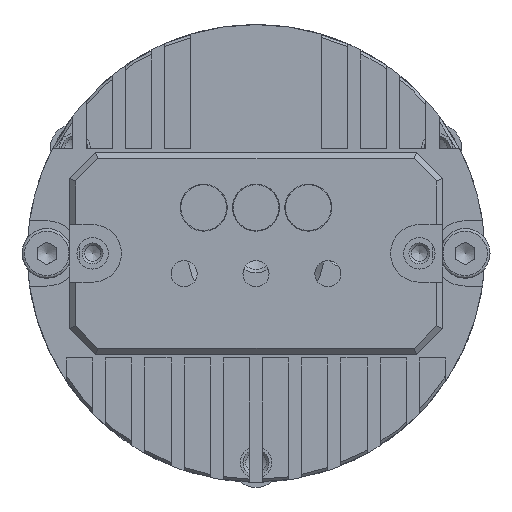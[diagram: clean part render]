
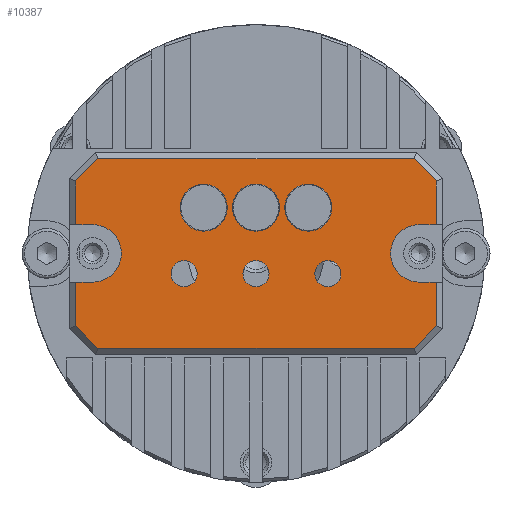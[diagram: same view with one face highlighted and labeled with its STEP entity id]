
A CAD part, left-side view. The second image highlights one B-rep face of the part: STEP entity #10387.
In plain terms, the highlighted planar face has unit normal (-1, 0, 0) as drawn and (0, 0, 1) by its records, which use the part's own axes.
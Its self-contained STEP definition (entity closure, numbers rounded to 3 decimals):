
#9009=CARTESIAN_POINT('',(6.05,-18.3,7.));
#9010=VERTEX_POINT('',#9009);
#9011=CARTESIAN_POINT('',(4.25,-18.3,7.));
#9012=DIRECTION('',(0.0,0.0,-1.0));
#9013=DIRECTION('',(-1.0,0.0,0.0));
#9014=AXIS2_PLACEMENT_3D('',#9011,#9012,#9013);
#9015=CIRCLE('',#9014,1.8);
#9016=EDGE_CURVE('',#9010,#9010,#9015,.T.);
#9037=CARTESIAN_POINT('',(6.05,-14.3,7.));
#9038=VERTEX_POINT('',#9037);
#9039=CARTESIAN_POINT('',(4.25,-14.3,7.));
#9040=DIRECTION('',(0.0,0.0,-1.0));
#9041=DIRECTION('',(-1.0,0.0,0.0));
#9042=AXIS2_PLACEMENT_3D('',#9039,#9040,#9041);
#9043=CIRCLE('',#9042,1.8);
#9044=EDGE_CURVE('',#9038,#9038,#9043,.T.);
#9065=CARTESIAN_POINT('',(10.3,-19.8,7.));
#9066=VERTEX_POINT('',#9065);
#9067=CARTESIAN_POINT('',(9.3,-19.8,7.));
#9068=DIRECTION('',(0.0,0.0,-1.0));
#9069=DIRECTION('',(-1.0,0.0,0.0));
#9070=AXIS2_PLACEMENT_3D('',#9067,#9068,#9069);
#9071=CIRCLE('',#9070,1.0);
#9072=EDGE_CURVE('',#9066,#9066,#9071,.T.);
#9093=CARTESIAN_POINT('',(10.3,-14.3,7.));
#9094=VERTEX_POINT('',#9093);
#9095=CARTESIAN_POINT('',(9.3,-14.3,7.));
#9096=DIRECTION('',(0.0,0.0,-1.0));
#9097=DIRECTION('',(-1.0,0.0,0.0));
#9098=AXIS2_PLACEMENT_3D('',#9095,#9096,#9097);
#9099=CIRCLE('',#9098,1.0);
#9100=EDGE_CURVE('',#9094,#9094,#9099,.T.);
#9121=CARTESIAN_POINT('',(10.3,-8.8,7.));
#9122=VERTEX_POINT('',#9121);
#9123=CARTESIAN_POINT('',(9.3,-8.8,7.));
#9124=DIRECTION('',(0.0,0.0,-1.0));
#9125=DIRECTION('',(-1.0,0.0,0.0));
#9126=AXIS2_PLACEMENT_3D('',#9123,#9124,#9125);
#9127=CIRCLE('',#9126,1.0);
#9128=EDGE_CURVE('',#9122,#9122,#9127,.T.);
#9438=CARTESIAN_POINT('',(5.55,-28.1,7.));
#9439=VERTEX_POINT('',#9438);
#9446=CARTESIAN_POINT('',(2.207,-28.1,7.));
#9447=VERTEX_POINT('',#9446);
#9448=CARTESIAN_POINT('',(5.55,-28.1,7.));
#9449=DIRECTION('',(-1.0,0.0,0.0));
#9450=VECTOR('',#9449,3.343);
#9451=LINE('',#9448,#9450);
#9452=EDGE_CURVE('',#9439,#9447,#9451,.T.);
#9476=CARTESIAN_POINT('',(5.55,-0.5,7.));
#9477=VERTEX_POINT('',#9476);
#9494=CARTESIAN_POINT('',(2.207,-0.5,7.));
#9495=VERTEX_POINT('',#9494);
#9502=CARTESIAN_POINT('',(2.207,-0.5,7.));
#9503=DIRECTION('',(1.0,0.0,0.0));
#9504=VECTOR('',#9503,3.343);
#9505=LINE('',#9502,#9504);
#9506=EDGE_CURVE('',#9495,#9477,#9505,.T.);
#9516=CARTESIAN_POINT('',(0.5,-2.207,7.));
#9517=VERTEX_POINT('',#9516);
#9518=CARTESIAN_POINT('',(0.5,-2.207,7.));
#9519=DIRECTION('',(0.707,0.707,0.0));
#9520=VECTOR('',#9519,2.414);
#9521=LINE('',#9518,#9520);
#9522=EDGE_CURVE('',#9517,#9495,#9521,.T.);
#9547=CARTESIAN_POINT('',(0.5,-26.393,7.));
#9548=VERTEX_POINT('',#9547);
#9549=CARTESIAN_POINT('',(0.5,-26.393,7.));
#9550=DIRECTION('',(0.0,1.0,0.0));
#9551=VECTOR('',#9550,24.186);
#9552=LINE('',#9549,#9551);
#9553=EDGE_CURVE('',#9548,#9517,#9552,.T.);
#9578=CARTESIAN_POINT('',(2.207,-28.1,7.));
#9579=DIRECTION('',(-0.707,0.707,0.0));
#9580=VECTOR('',#9579,2.414);
#9581=LINE('',#9578,#9580);
#9582=EDGE_CURVE('',#9447,#9548,#9581,.T.);
#9617=CARTESIAN_POINT('',(5.55,-26.8,7.));
#9618=VERTEX_POINT('',#9617);
#9625=CARTESIAN_POINT('',(5.55,-28.1,7.));
#9626=DIRECTION('',(0.0,1.0,0.0));
#9627=VECTOR('',#9626,1.3);
#9628=LINE('',#9625,#9627);
#9629=EDGE_CURVE('',#9439,#9618,#9628,.T.);
#9823=CARTESIAN_POINT('',(9.95,-28.1,7.));
#9824=VERTEX_POINT('',#9823);
#9832=CARTESIAN_POINT('',(13.293,-28.1,7.));
#9833=VERTEX_POINT('',#9832);
#9840=CARTESIAN_POINT('',(13.293,-28.1,7.));
#9841=DIRECTION('',(-1.0,0.0,0.0));
#9842=VECTOR('',#9841,3.343);
#9843=LINE('',#9840,#9842);
#9844=EDGE_CURVE('',#9833,#9824,#9843,.T.);
#9854=CARTESIAN_POINT('',(9.95,-0.5,7.));
#9855=VERTEX_POINT('',#9854);
#9862=CARTESIAN_POINT('',(13.293,-0.5,7.));
#9863=VERTEX_POINT('',#9862);
#9864=CARTESIAN_POINT('',(9.95,-0.5,7.));
#9865=DIRECTION('',(1.0,0.0,0.0));
#9866=VECTOR('',#9865,3.343);
#9867=LINE('',#9864,#9866);
#9868=EDGE_CURVE('',#9855,#9863,#9867,.T.);
#9885=CARTESIAN_POINT('',(15.,-2.207,7.));
#9886=VERTEX_POINT('',#9885);
#9887=CARTESIAN_POINT('',(15.,-26.393,7.));
#9888=VERTEX_POINT('',#9887);
#9889=CARTESIAN_POINT('',(15.,-2.207,7.));
#9890=DIRECTION('',(0.0,-1.0,0.0));
#9891=VECTOR('',#9890,24.186);
#9892=LINE('',#9889,#9891);
#9893=EDGE_CURVE('',#9886,#9888,#9892,.T.);
#9925=CARTESIAN_POINT('',(13.293,-0.5,7.));
#9926=DIRECTION('',(0.707,-0.707,0.0));
#9927=VECTOR('',#9926,2.414);
#9928=LINE('',#9925,#9927);
#9929=EDGE_CURVE('',#9863,#9886,#9928,.T.);
#9947=CARTESIAN_POINT('',(15.,-26.393,7.));
#9948=DIRECTION('',(-0.707,-0.707,0.0));
#9949=VECTOR('',#9948,2.414);
#9950=LINE('',#9947,#9949);
#9951=EDGE_CURVE('',#9888,#9833,#9950,.T.);
#9979=CARTESIAN_POINT('',(9.95,-1.8,7.));
#9980=VERTEX_POINT('',#9979);
#9987=CARTESIAN_POINT('',(9.95,-0.5,7.));
#9988=DIRECTION('',(0.0,-1.0,0.0));
#9989=VECTOR('',#9988,1.3);
#9990=LINE('',#9987,#9989);
#9991=EDGE_CURVE('',#9855,#9980,#9990,.T.);
#10052=CARTESIAN_POINT('',(6.05,-10.3,7.));
#10053=VERTEX_POINT('',#10052);
#10054=CARTESIAN_POINT('',(4.25,-10.3,7.));
#10055=DIRECTION('',(0.0,0.0,-1.0));
#10056=DIRECTION('',(-1.0,0.0,0.0));
#10057=AXIS2_PLACEMENT_3D('',#10054,#10055,#10056);
#10058=CIRCLE('',#10057,1.8);
#10059=EDGE_CURVE('',#10053,#10053,#10058,.T.);
#10070=CARTESIAN_POINT('',(5.55,-1.8,7.));
#10071=VERTEX_POINT('',#10070);
#10072=CARTESIAN_POINT('',(5.55,-1.8,7.));
#10073=DIRECTION('',(0.0,1.0,0.0));
#10074=VECTOR('',#10073,1.3);
#10075=LINE('',#10072,#10074);
#10076=EDGE_CURVE('',#10071,#9477,#10075,.T.);
#10102=CARTESIAN_POINT('',(9.95,-26.8,7.));
#10103=VERTEX_POINT('',#10102);
#10104=CARTESIAN_POINT('',(9.95,-26.8,7.));
#10105=DIRECTION('',(0.0,-1.0,0.0));
#10106=VECTOR('',#10105,1.3);
#10107=LINE('',#10104,#10106);
#10108=EDGE_CURVE('',#10103,#9824,#10107,.T.);
#10163=CARTESIAN_POINT('',(7.75,-1.8,7.));
#10164=DIRECTION('',(0.0,0.0,-1.0));
#10165=DIRECTION('',(1.0,0.0,0.0));
#10166=AXIS2_PLACEMENT_3D('',#10163,#10164,#10165);
#10167=CIRCLE('',#10166,2.2);
#10168=EDGE_CURVE('',#9980,#10071,#10167,.T.);
#10229=CARTESIAN_POINT('',(7.75,-26.8,7.));
#10230=DIRECTION('',(0.0,0.0,-1.0));
#10231=DIRECTION('',(1.0,0.0,0.0));
#10232=AXIS2_PLACEMENT_3D('',#10229,#10230,#10231);
#10233=CIRCLE('',#10232,2.2);
#10234=EDGE_CURVE('',#9618,#10103,#10233,.T.);
#10346=CARTESIAN_POINT('',(7.75,-14.3,7.));
#10347=DIRECTION('',(0.0,0.0,1.0));
#10348=DIRECTION('',(1.0,0.0,0.0));
#10349=AXIS2_PLACEMENT_3D('',#10346,#10347,#10348);
#10350=PLANE('',#10349);
#10351=ORIENTED_EDGE('',*,*,#9452,.F.);
#10352=ORIENTED_EDGE('',*,*,#9629,.T.);
#10353=ORIENTED_EDGE('',*,*,#10234,.T.);
#10354=ORIENTED_EDGE('',*,*,#10108,.T.);
#10355=ORIENTED_EDGE('',*,*,#9844,.F.);
#10356=ORIENTED_EDGE('',*,*,#9951,.F.);
#10357=ORIENTED_EDGE('',*,*,#9893,.F.);
#10358=ORIENTED_EDGE('',*,*,#9929,.F.);
#10359=ORIENTED_EDGE('',*,*,#9868,.F.);
#10360=ORIENTED_EDGE('',*,*,#9991,.T.);
#10361=ORIENTED_EDGE('',*,*,#10168,.T.);
#10362=ORIENTED_EDGE('',*,*,#10076,.T.);
#10363=ORIENTED_EDGE('',*,*,#9506,.F.);
#10364=ORIENTED_EDGE('',*,*,#9522,.F.);
#10365=ORIENTED_EDGE('',*,*,#9553,.F.);
#10366=ORIENTED_EDGE('',*,*,#9582,.F.);
#10367=EDGE_LOOP('',(#10351,#10352,#10353,#10354,#10355,#10356,#10357,#10358,#10359,#10360,#10361,#10362,#10363,#10364,#10365,#10366));
#10368=FACE_OUTER_BOUND('',#10367,.T.);
#10369=ORIENTED_EDGE('',*,*,#9016,.T.);
#10370=EDGE_LOOP('',(#10369));
#10371=FACE_BOUND('',#10370,.T.);
#10372=ORIENTED_EDGE('',*,*,#9044,.T.);
#10373=EDGE_LOOP('',(#10372));
#10374=FACE_BOUND('',#10373,.T.);
#10375=ORIENTED_EDGE('',*,*,#9072,.T.);
#10376=EDGE_LOOP('',(#10375));
#10377=FACE_BOUND('',#10376,.T.);
#10378=ORIENTED_EDGE('',*,*,#9100,.T.);
#10379=EDGE_LOOP('',(#10378));
#10380=FACE_BOUND('',#10379,.T.);
#10381=ORIENTED_EDGE('',*,*,#9128,.T.);
#10382=EDGE_LOOP('',(#10381));
#10383=FACE_BOUND('',#10382,.T.);
#10384=ORIENTED_EDGE('',*,*,#10059,.T.);
#10385=EDGE_LOOP('',(#10384));
#10386=FACE_BOUND('',#10385,.T.);
#10387=ADVANCED_FACE('',(#10368,#10371,#10374,#10377,#10380,#10383,#10386),#10350,.T.);
